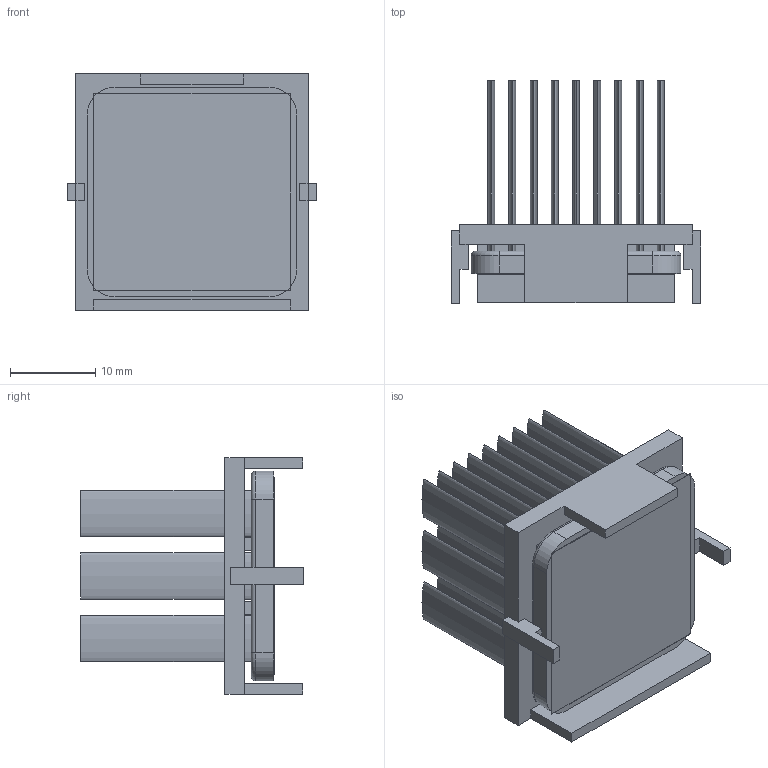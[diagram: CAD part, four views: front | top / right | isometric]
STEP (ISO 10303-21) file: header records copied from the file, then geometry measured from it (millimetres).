
FILE_DESCRIPTION (( 'STEP AP214' ), '1' );
FILE_NAME ('INM25001-23W_2.6+Y.STEP', '2023-02-17T17:31:43', ( '' ), ( '' ), 'SwSTEP 2.0', 'SolidWorks 2020', '' );
FILE_SCHEMA (( 'AUTOMOTIVE_DESIGN' ));
Length unit declared in the file: inch
Products named in the file (1): INM25001-23W_2.6+Y
Bounding box: 29.2 x 26.1 x 27.7 mm (x, y, z)
Volume: 4602.1 mm3; surface area: 10414.5 mm2
Topology: 3 solids, 3 shells, 163 faces, 382 edges, 252 vertices
Faces by surface type: plane 97, bspline 54, cylinder 8, torus 4
Entity records: 6919 total; most frequent: CARTESIAN_POINT 1500, ORIENTED_EDGE 764, DIRECTION 514, EDGE_CURVE 382, VECTOR 254, LINE 254, VERTEX_POINT 252, EDGE_LOOP 192
